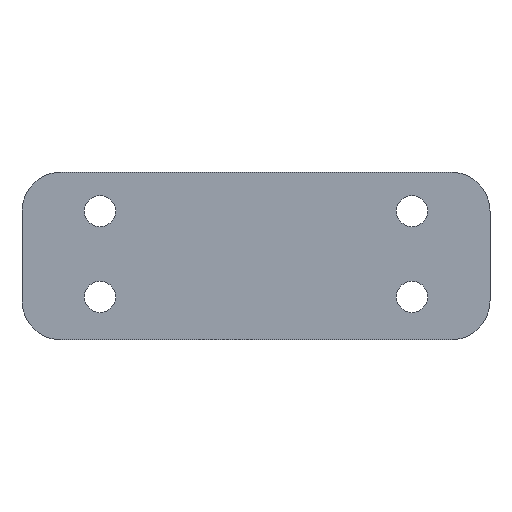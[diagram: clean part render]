
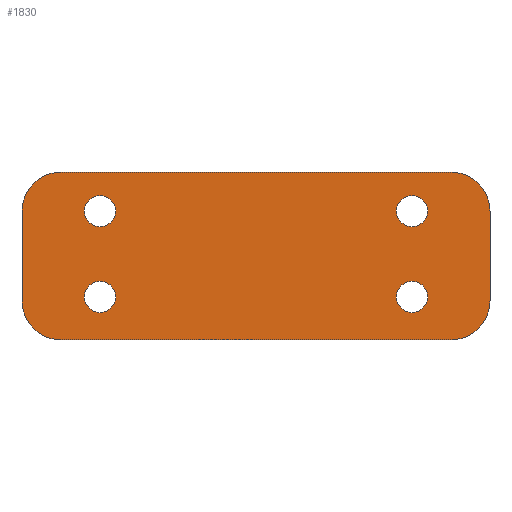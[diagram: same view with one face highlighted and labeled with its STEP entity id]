
A CAD part, front view. The second image highlights one B-rep face of the part: STEP entity #1830.
In plain terms, the highlighted planar face has unit normal (0, -1, 0).
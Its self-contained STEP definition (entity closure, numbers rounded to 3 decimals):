
#46=CARTESIAN_POINT('',(20.,0.,-32.));
#47=DIRECTION('',(0.,1.,0.));
#48=DIRECTION('',(1.,0.,0.));
#49=AXIS2_PLACEMENT_3D('',#46,#47,#48);
#55=CARTESIAN_POINT('',(20.,0.,-32.));
#56=DIRECTION('',(0.,1.,0.));
#57=DIRECTION('',(-1.,0.,0.));
#58=AXIS2_PLACEMENT_3D('',#55,#56,#57);
#63=CARTESIAN_POINT('',(20.,0.,-10.));
#64=DIRECTION('',(0.,1.,0.));
#65=DIRECTION('',(1.,0.,0.));
#66=AXIS2_PLACEMENT_3D('',#63,#64,#65);
#71=CARTESIAN_POINT('',(20.,0.,-10.));
#72=DIRECTION('',(0.,1.,0.));
#73=DIRECTION('',(-1.,0.,0.));
#74=AXIS2_PLACEMENT_3D('',#71,#72,#73);
#79=CARTESIAN_POINT('',(100.,0.,-32.));
#80=DIRECTION('',(0.,1.,0.));
#81=DIRECTION('',(1.,0.,0.));
#82=AXIS2_PLACEMENT_3D('',#79,#80,#81);
#87=CARTESIAN_POINT('',(100.,0.,-32.));
#88=DIRECTION('',(0.,1.,0.));
#89=DIRECTION('',(-1.,0.,0.));
#90=AXIS2_PLACEMENT_3D('',#87,#88,#89);
#95=CARTESIAN_POINT('',(100.,0.,-10.));
#96=DIRECTION('',(0.,1.,0.));
#97=DIRECTION('',(1.,0.,0.));
#98=AXIS2_PLACEMENT_3D('',#95,#96,#97);
#103=CARTESIAN_POINT('',(100.,0.,-10.));
#104=DIRECTION('',(0.,1.,0.));
#105=DIRECTION('',(-1.,0.,0.));
#106=AXIS2_PLACEMENT_3D('',#103,#104,#105);
#111=CARTESIAN_POINT('',(10.,0.,-33.));
#112=DIRECTION('',(0.,-1.,0.));
#113=DIRECTION('',(-1.,0.,0.));
#114=AXIS2_PLACEMENT_3D('',#111,#112,#113);
#119=DIRECTION('',(0.,0.,1.));
#120=VECTOR('',#119,23.);
#121=CARTESIAN_POINT('',(0.,0.,-33.));
#122=LINE('1402',#121,#120);
#126=CARTESIAN_POINT('',(10.,0.,-10.));
#127=DIRECTION('',(0.,-1.,0.));
#128=DIRECTION('',(0.,0.,1.));
#129=AXIS2_PLACEMENT_3D('',#126,#127,#128);
#134=DIRECTION('',(1.,0.,0.));
#135=VECTOR('',#134,100.);
#136=CARTESIAN_POINT('',(10.,0.,0.));
#137=LINE('1406',#136,#135);
#141=CARTESIAN_POINT('',(110.,0.,-10.));
#142=DIRECTION('',(0.,-1.,0.));
#143=DIRECTION('',(1.,0.,0.));
#144=AXIS2_PLACEMENT_3D('',#141,#142,#143);
#149=CARTESIAN_POINT('',(110.,0.,-33.));
#150=DIRECTION('',(0.,-1.,0.));
#151=DIRECTION('',(0.,0.,-1.));
#152=AXIS2_PLACEMENT_3D('',#149,#150,#151);
#157=DIRECTION('',(-1.,0.,0.));
#158=VECTOR('',#157,100.);
#159=CARTESIAN_POINT('',(110.,0.,-43.));
#160=LINE('1407',#159,#158);
#1323=DIRECTION('',(0.,0.,-1.));
#1324=VECTOR('',#1323,23.);
#1325=CARTESIAN_POINT('',(120.,0.,-10.));
#1326=LINE('1405',#1325,#1324);
#1629=CARTESIAN_POINT('',(24.,0.,-32.));
#1630=CARTESIAN_POINT('',(16.,0.,-32.));
#1631=VERTEX_POINT('',#1629);
#1632=VERTEX_POINT('',#1630);
#1633=CARTESIAN_POINT('',(24.,0.,-10.));
#1634=CARTESIAN_POINT('',(16.,0.,-10.));
#1635=VERTEX_POINT('',#1633);
#1636=VERTEX_POINT('',#1634);
#1637=CARTESIAN_POINT('',(104.,0.,-32.));
#1638=CARTESIAN_POINT('',(96.,0.,-32.));
#1639=VERTEX_POINT('',#1637);
#1640=VERTEX_POINT('',#1638);
#1641=CARTESIAN_POINT('',(104.,0.,-10.));
#1642=CARTESIAN_POINT('',(96.,0.,-10.));
#1643=VERTEX_POINT('',#1641);
#1644=VERTEX_POINT('',#1642);
#1661=CARTESIAN_POINT('',(0.,0.,-33.));
#1662=CARTESIAN_POINT('',(10.,0.,-43.));
#1663=VERTEX_POINT('',#1661);
#1664=VERTEX_POINT('',#1662);
#1665=CARTESIAN_POINT('',(110.,0.,-43.));
#1666=CARTESIAN_POINT('',(120.,0.,-33.));
#1667=VERTEX_POINT('',#1665);
#1668=VERTEX_POINT('',#1666);
#1669=CARTESIAN_POINT('',(10.,0.,0.));
#1670=CARTESIAN_POINT('',(0.,0.,-10.));
#1671=VERTEX_POINT('',#1669);
#1672=VERTEX_POINT('',#1670);
#1673=CARTESIAN_POINT('',(120.,0.,-10.));
#1674=CARTESIAN_POINT('',(110.,0.,0.));
#1675=VERTEX_POINT('',#1673);
#1676=VERTEX_POINT('',#1674);
#1783=CARTESIAN_POINT('',(0.,0.,0.));
#1784=DIRECTION('',(0.,1.,0.));
#1785=DIRECTION('',(1.,0.,0.));
#1786=AXIS2_PLACEMENT_3D('',#1783,#1784,#1785);
#1787=PLANE('96',#1786);
#1789=ORIENTED_EDGE('1386',*,*,#1788,.F.);
#1791=ORIENTED_EDGE('1402',*,*,#1790,.T.);
#1793=ORIENTED_EDGE('1394',*,*,#1792,.F.);
#1795=ORIENTED_EDGE('1406',*,*,#1794,.T.);
#1797=ORIENTED_EDGE('1398',*,*,#1796,.F.);
#1799=ORIENTED_EDGE('1405',*,*,#1798,.T.);
#1801=ORIENTED_EDGE('1392',*,*,#1800,.F.);
#1803=ORIENTED_EDGE('1407',*,*,#1802,.T.);
#1804=EDGE_LOOP('96',(#1789,#1791,#1793,#1795,#1797,#1799,#1801,#1803));
#1805=FACE_OUTER_BOUND('96',#1804,.F.);
#1807=ORIENTED_EDGE('1108',*,*,#1806,.F.);
#1809=ORIENTED_EDGE('1109',*,*,#1808,.F.);
#1810=EDGE_LOOP('96',(#1807,#1809));
#1811=FACE_BOUND('96',#1810,.F.);
#1813=ORIENTED_EDGE('1110',*,*,#1812,.F.);
#1815=ORIENTED_EDGE('1111',*,*,#1814,.F.);
#1816=EDGE_LOOP('96',(#1813,#1815));
#1817=FACE_BOUND('96',#1816,.F.);
#1819=ORIENTED_EDGE('1112',*,*,#1818,.F.);
#1821=ORIENTED_EDGE('1113',*,*,#1820,.F.);
#1822=EDGE_LOOP('96',(#1819,#1821));
#1823=FACE_BOUND('96',#1822,.F.);
#1825=ORIENTED_EDGE('1106',*,*,#1824,.F.);
#1827=ORIENTED_EDGE('1107',*,*,#1826,.F.);
#1828=EDGE_LOOP('96',(#1825,#1827));
#1829=FACE_BOUND('96',#1828,.F.);
#50=CIRCLE('1106',#49,4.);
#59=CIRCLE('1107',#58,4.);
#67=CIRCLE('1108',#66,4.);
#75=CIRCLE('1109',#74,4.);
#83=CIRCLE('1110',#82,4.);
#91=CIRCLE('1111',#90,4.);
#99=CIRCLE('1112',#98,4.);
#107=CIRCLE('1113',#106,4.);
#115=CIRCLE('1386',#114,10.);
#130=CIRCLE('1394',#129,10.);
#145=CIRCLE('1398',#144,10.);
#153=CIRCLE('1392',#152,10.);
#1788=EDGE_CURVE('1386',#1663,#1664,#115,.T.);
#1790=EDGE_CURVE('1402',#1663,#1672,#122,.T.);
#1792=EDGE_CURVE('1394',#1671,#1672,#130,.T.);
#1794=EDGE_CURVE('1406',#1671,#1676,#137,.T.);
#1796=EDGE_CURVE('1398',#1675,#1676,#145,.T.);
#1798=EDGE_CURVE('1405',#1675,#1668,#1326,.T.);
#1800=EDGE_CURVE('1392',#1667,#1668,#153,.T.);
#1802=EDGE_CURVE('1407',#1667,#1664,#160,.T.);
#1806=EDGE_CURVE('1108',#1635,#1636,#67,.T.);
#1808=EDGE_CURVE('1109',#1636,#1635,#75,.T.);
#1812=EDGE_CURVE('1110',#1639,#1640,#83,.T.);
#1814=EDGE_CURVE('1111',#1640,#1639,#91,.T.);
#1818=EDGE_CURVE('1112',#1643,#1644,#99,.T.);
#1820=EDGE_CURVE('1113',#1644,#1643,#107,.T.);
#1824=EDGE_CURVE('1106',#1631,#1632,#50,.T.);
#1826=EDGE_CURVE('1107',#1632,#1631,#59,.T.);
#1830=ADVANCED_FACE('96',(#1805,#1811,#1817,#1823,#1829),#1787,.F.);
